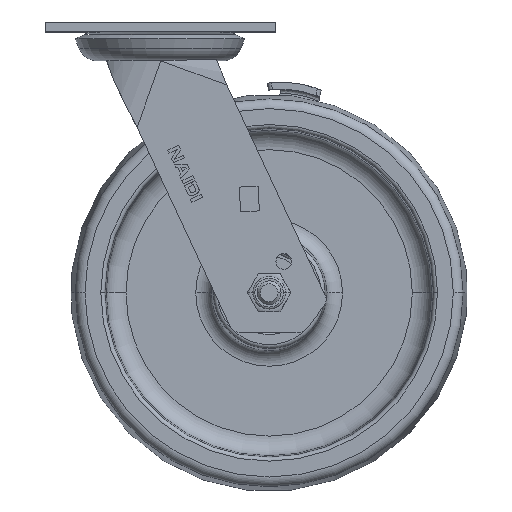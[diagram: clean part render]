
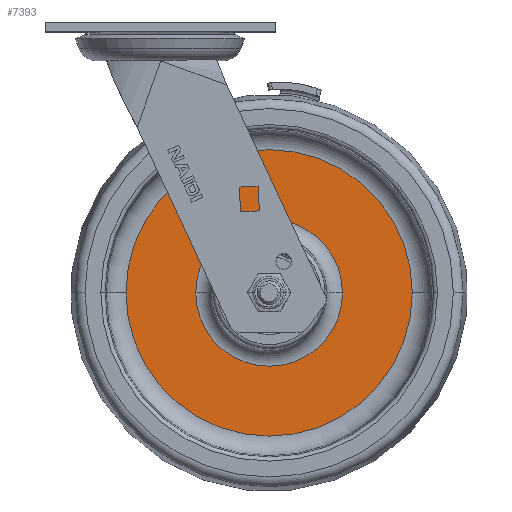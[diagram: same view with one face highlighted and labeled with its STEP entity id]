
A CAD part, top view. The second image highlights one B-rep face of the part: STEP entity #7393.
In plain terms, the highlighted planar face has unit normal (0, 0, 1) as drawn and (1, 0, 0) by its records, which use the part's own axes.
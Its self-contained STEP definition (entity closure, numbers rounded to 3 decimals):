
#6454=CARTESIAN_POINT('',(4.,0.,0.));
#6455=DIRECTION('',(-1.,0.,0.));
#6456=DIRECTION('',(0.,1.,0.));
#6457=AXIS2_PLACEMENT_3D('',#6454,#6455,#6456);
#6459=CARTESIAN_POINT('',(4.,0.,0.));
#6460=DIRECTION('',(1.,0.,0.));
#6461=DIRECTION('',(0.,1.,0.));
#6462=AXIS2_PLACEMENT_3D('',#6459,#6460,#6461);
#6464=CARTESIAN_POINT('',(4.,0.,0.));
#6465=DIRECTION('',(1.,0.,0.));
#6466=DIRECTION('',(0.,1.,0.));
#6467=AXIS2_PLACEMENT_3D('',#6464,#6465,#6466);
#6479=CARTESIAN_POINT('',(4.,0.,0.));
#6480=DIRECTION('',(-1.,0.,0.));
#6481=DIRECTION('',(0.,1.,0.));
#6482=AXIS2_PLACEMENT_3D('',#6479,#6480,#6481);
#6608=CARTESIAN_POINT('',(4.,36.998,0.));
#6609=VERTEX_POINT('',#6608);
#6610=CARTESIAN_POINT('',(4.,72.206,0.));
#6612=VERTEX_POINT('',#6610);
#6676=CARTESIAN_POINT('',(4.,-36.998,0.));
#6677=VERTEX_POINT('',#6676);
#6678=CARTESIAN_POINT('',(4.,-72.206,
0.));
#6680=VERTEX_POINT('',#6678);
#7378=CARTESIAN_POINT('',(4.,0.,0.));
#7379=DIRECTION('',(1.,0.,0.));
#7380=DIRECTION('',(0.,-1.,0.));
#7381=AXIS2_PLACEMENT_3D('',#7378,#7379,#7380);
#7382=PLANE('',#7381);
#7384=ORIENTED_EDGE('',*,*,#7383,.F.);
#7386=ORIENTED_EDGE('',*,*,#7385,.T.);
#7387=EDGE_LOOP('',(#7384,#7386));
#7388=FACE_OUTER_BOUND('',#7387,.F.);
#7389=ORIENTED_EDGE('',*,*,#7371,.F.);
#7390=ORIENTED_EDGE('',*,*,#7360,.T.);
#7391=EDGE_LOOP('',(#7389,#7390));
#7392=FACE_BOUND('',#7391,.F.);
#6458=CIRCLE('',#6457,36.998);
#6463=CIRCLE('',#6462,36.998);
#6468=CIRCLE('',#6467,72.206);
#6483=CIRCLE('',#6482,72.206);
#7360=EDGE_CURVE('',#6609,#6677,#6463,.T.);
#7371=EDGE_CURVE('',#6609,#6677,#6458,.T.);
#7383=EDGE_CURVE('',#6612,#6680,#6468,.T.);
#7385=EDGE_CURVE('',#6612,#6680,#6483,.T.);
#7393=ADVANCED_FACE('',(#7388,#7392),#7382,.T.);
